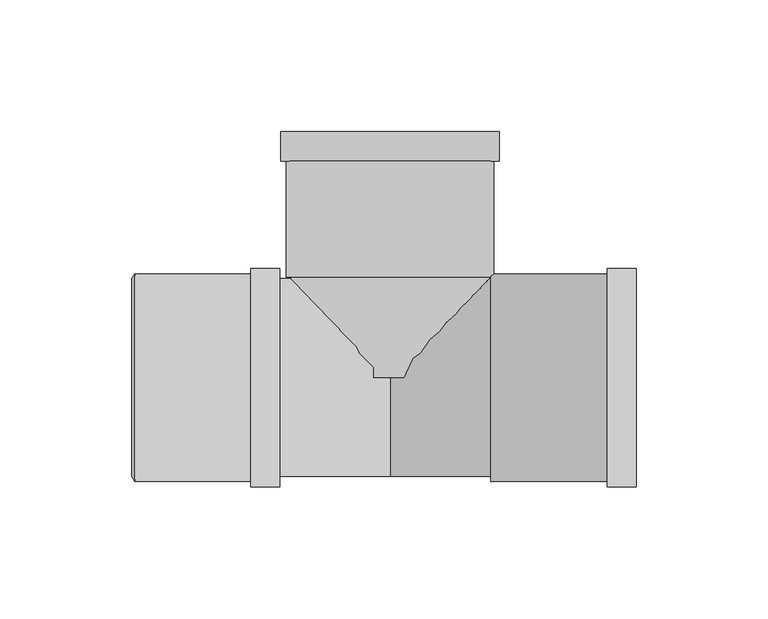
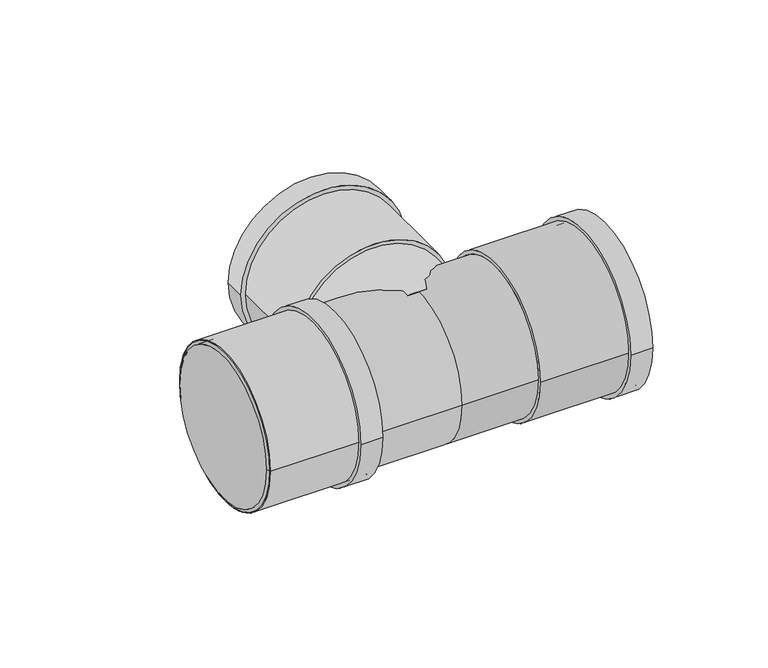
"""IFC4 building model written with IfcOpenShell, lengths in millimetres: pipe fitting geometry, Superdrain HTEA Branch : Superdrain HTEA Branch."""

from ifc_helpers import new_model, si_unit, point, frame, origin, origin_2d, place, context, project, spatial, polyline, circle_curve, trimmed, segment, composite_curve, outline, extrude, source, transform, mapped, element, save
from ifc_brep_helpers import plane_surface, revolved_surface, advanced_brep


def pipe_fitting_077ba487(model_context):
    return source(origin(), model_context, "Body", "SolidModel", [
        extrude(outline(composite_curve([segment(trimmed(circle_curve(origin_2d(), 39.375), [point((39.375, 0.0))], [point((-39.375, 0.0))], False, "CARTESIAN"), True, "CONTINUOUS"), segment(trimmed(circle_curve(origin_2d(), 39.375), [point((-39.375, 0.0))], [point((39.375, 0.0))], False, "CARTESIAN"), True, "CONTINUOUS")], self_intersect=False), holes=[composite_curve([segment(trimmed(circle_curve(origin_2d(), 37.5), [point((37.5, 0.0))], [point((-37.5, 0.0))], True, "CARTESIAN"), True, "CONTINUOUS"), segment(trimmed(circle_curve(origin_2d(), 37.5), [point((-37.5, 0.0))], [point((37.5, 0.0))], True, "CARTESIAN"), True, "CONTINUOUS")], self_intersect=False)]), frame((-96.8, 0.0, 0.0), z_axis=(1.0, 0.0, 0.0), x_axis=(0.0, 1.0, 0.0)), (0.0, 0.0, 1.0), 55.0),
        extrude(outline(composite_curve([segment(trimmed(circle_curve(origin_2d(), 41.34375), [point((41.34375, 0.0))], [point((-41.34375, 0.0))], False, "CARTESIAN"), True, "CONTINUOUS"), segment(trimmed(circle_curve(origin_2d(), 41.34375), [point((-41.34375, 0.0))], [point((41.34375, 0.0))], False, "CARTESIAN"), True, "CONTINUOUS")], self_intersect=False), holes=[composite_curve([segment(trimmed(circle_curve(origin_2d(), 37.5), [point((37.5, 0.0))], [point((-37.5, 0.0))], True, "CARTESIAN"), True, "CONTINUOUS"), segment(trimmed(circle_curve(origin_2d(), 37.5), [point((-37.5, 0.0))], [point((37.5, 0.0))], True, "CARTESIAN"), True, "CONTINUOUS")], self_intersect=False)]), frame((-52.8, 0.0, 0.0), z_axis=(1.0, 0.0, 0.0), x_axis=(0.0, 1.0, 0.0)), (0.0, 0.0, 1.0), 11.0),
        advanced_brep(
        [(-97.8, 37.5, 0.0), (-97.8, -37.5, 0.0), (-96.8, 39.375, 0.0), (-96.8, -39.375, 0.0)],
        [
            (0, 1, circle_curve(frame((-97.8, 0.0, 0.0), z_axis=(-1.0, 0.0, 0.0), x_axis=(0.0, 1.0000000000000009, 0.0)), 37.5)),
            (1, 0, circle_curve(frame((-97.8, 0.0, 0.0), z_axis=(-1.0, 0.0, 0.0), x_axis=(0.0, -1.0000000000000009, 0.0)), 37.5)),
            (2, 3, circle_curve(frame((-96.8, 0.0, 0.0), z_axis=(1.0, 0.0, 0.0), x_axis=(0.0, -1.0000000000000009, 0.0)), 39.375)),
            (3, 2, circle_curve(frame((-96.8, 0.0, 0.0), z_axis=(1.0, 0.0, 0.0), x_axis=(0.0, 1.0000000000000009, 0.0)), 39.375)),
            (3, 1),
            (0, 2),
        ],
        [
            plane_surface(frame((-97.8, 0.0, 0.0), z_axis=(-1.0, 0.0, 0.0), x_axis=(0.0, 0.0, -1.0))),
            plane_surface(frame((-96.8, 0.0, 0.0), z_axis=(1.0, 0.0, 0.0), x_axis=(0.0, 0.0, -1.0))),
            revolved_surface(polyline([(-97.8, 37.49999999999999, 0.0), (-96.8, 39.375, 0.0)]), (-117.8, 0.0, 0.0), (1.0000000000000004, 0.0, 0.0)),
            revolved_surface(polyline([(-97.8, -37.49999999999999, 0.0), (-96.8, -39.375, 0.0)]), (-117.8, 0.0, 0.0), (1.0000000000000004, 0.0, 0.0)),
        ],
        [
            (0, [[1, 2]]),
            (1, [[3, 4]]),
            (2, [[-4, 5, -1, 6]]),
            (3, [[-3, -6, -2, -5]]),
        ],
    ),
        extrude(outline(composite_curve([segment(trimmed(circle_curve(origin_2d(), 39.375), [point((-39.375, 0.0))], [point((39.375, 0.0))], False, "CARTESIAN"), True, "CONTINUOUS"), segment(trimmed(circle_curve(origin_2d(), 39.375), [point((39.375, 0.0))], [point((-39.375, 0.0))], False, "CARTESIAN"), True, "CONTINUOUS")], self_intersect=False), holes=[composite_curve([segment(trimmed(circle_curve(origin_2d(), 37.5), [point((37.5, 0.0))], [point((-37.5, 0.0))], True, "CARTESIAN"), True, "CONTINUOUS"), segment(trimmed(circle_curve(origin_2d(), 37.5), [point((-37.5, 0.0))], [point((37.5, 0.0))], True, "CARTESIAN"), True, "CONTINUOUS")], self_intersect=False)]), frame((38.2, 0.0, 0.0), z_axis=(1.0, 0.0, 0.0), x_axis=(0.0, 1.0, 0.0)), (0.0, 0.0, 1.0), 55.0),
        extrude(outline(composite_curve([segment(trimmed(circle_curve(origin_2d(), 41.34375), [point((41.34375, 0.0))], [point((-41.34375, 0.0))], False, "CARTESIAN"), True, "CONTINUOUS"), segment(trimmed(circle_curve(origin_2d(), 41.34375), [point((-41.34375, 0.0))], [point((41.34375, 0.0))], False, "CARTESIAN"), True, "CONTINUOUS")], self_intersect=False), holes=[composite_curve([segment(trimmed(circle_curve(origin_2d(), 37.5), [point((37.5, 0.0))], [point((-37.5, 0.0))], True, "CARTESIAN"), True, "CONTINUOUS"), segment(trimmed(circle_curve(origin_2d(), 37.5), [point((-37.5, 0.0))], [point((37.5, 0.0))], True, "CARTESIAN"), True, "CONTINUOUS")], self_intersect=False)]), frame((82.2, 0.0, 0.0), z_axis=(1.0, 0.0, 0.0), x_axis=(0.0, 1.0, 0.0)), (0.0, 0.0, 1.0), 11.0),
        extrude(outline(composite_curve([segment(trimmed(circle_curve(origin_2d(), 37.5), [point((0.0, 37.5))], [point((0.0, -37.5))], False, "CARTESIAN"), True, "CONTINUOUS"), segment(trimmed(circle_curve(origin_2d(), 37.5), [point((0.0, -37.5))], [point((0.0, 37.5))], False, "CARTESIAN"), True, "CONTINUOUS")], self_intersect=False)), frame((0.0, 0.0, 0.0), z_axis=(0.0, 1.0, 0.0), x_axis=(0.0, 0.0, 1.0)), (0.0, 0.0, 1.0), 38.2),
        extrude(outline(composite_curve([segment(trimmed(circle_curve(origin_2d(), 37.5), [point((37.5, 0.0))], [point((-37.5, 0.0))], False, "CARTESIAN"), True, "CONTINUOUS"), segment(trimmed(circle_curve(origin_2d(), 37.5), [point((-37.5, 0.0))], [point((37.5, 0.0))], False, "CARTESIAN"), True, "CONTINUOUS")], self_intersect=False)), frame((-96.8, 0.0, 0.0), z_axis=(1.0, 0.0, 0.0), x_axis=(0.0, 1.0, 0.0)), (0.0, 0.0, 1.0), 96.8),
        extrude(outline(composite_curve([segment(trimmed(circle_curve(origin_2d(), 37.5), [point((-37.5, 0.0))], [point((37.5, 0.0))], False, "CARTESIAN"), True, "CONTINUOUS"), segment(trimmed(circle_curve(origin_2d(), 37.5), [point((37.5, 0.0))], [point((-37.5, 0.0))], False, "CARTESIAN"), True, "CONTINUOUS")], self_intersect=False)), frame((0.0, 0.0, 0.0), z_axis=(1.0, 0.0, 0.0), x_axis=(0.0, 1.0, 0.0)), (0.0, 0.0, 1.0), 38.2),
        extrude(outline(composite_curve([segment(trimmed(circle_curve(origin_2d(), 41.34375), [point((0.0, 41.34375))], [point((0.0, -41.34375))], False, "CARTESIAN"), True, "CONTINUOUS"), segment(trimmed(circle_curve(origin_2d(), 41.34375), [point((0.0, -41.34375))], [point((0.0, 41.34375))], False, "CARTESIAN"), True, "CONTINUOUS")], self_intersect=False), holes=[composite_curve([segment(trimmed(circle_curve(origin_2d(), 37.5), [point((0.0, 37.5))], [point((0.0, -37.5))], True, "CARTESIAN"), True, "CONTINUOUS"), segment(trimmed(circle_curve(origin_2d(), 37.5), [point((0.0, -37.5))], [point((0.0, 37.5))], True, "CARTESIAN"), True, "CONTINUOUS")], self_intersect=False)]), frame((0.0, 82.2, 0.0), z_axis=(0.0, 1.0, 0.0), x_axis=(0.0, 0.0, 1.0)), (0.0, 0.0, 1.0), 11.0),
        extrude(outline(composite_curve([segment(trimmed(circle_curve(origin_2d(), 39.375), [point((0.0, 39.375))], [point((0.0, -39.375))], False, "CARTESIAN"), True, "CONTINUOUS"), segment(trimmed(circle_curve(origin_2d(), 39.375), [point((0.0, -39.375))], [point((0.0, 39.375))], False, "CARTESIAN"), True, "CONTINUOUS")], self_intersect=False), holes=[composite_curve([segment(trimmed(circle_curve(origin_2d(), 37.5), [point((0.0, 37.5))], [point((0.0, -37.5))], True, "CARTESIAN"), True, "CONTINUOUS"), segment(trimmed(circle_curve(origin_2d(), 37.5), [point((0.0, -37.5))], [point((0.0, 37.5))], True, "CARTESIAN"), True, "CONTINUOUS")], self_intersect=False)]), frame((0.0, 38.2, 0.0), z_axis=(0.0, 1.0, 0.0), x_axis=(0.0, 0.0, 1.0)), (0.0, 0.0, 1.0), 55.0),
    ])


if __name__ == "__main__":
    model = new_model("IFC4")
    model_context = context("Model", 3, world=origin())
    ifc_project = project(units=[si_unit("LENGTHUNIT", "METRE", prefix="MILLI")], contexts=[model_context])
    site = spatial("IfcSite", under=ifc_project)
    building = spatial("IfcBuilding", under=site)
    placement = place(None, origin())
    pipe_fitting_shape = pipe_fitting_077ba487(model_context)
    element("IfcPipeFitting", 1, ObjectType="Superdrain HTEA Branch : Superdrain HTEA Branch", at=placement, inside=building, context=model_context, shape_type="MappedRepresentation", body=[
        mapped(pipe_fitting_shape, transform((0.0, 0.0, 0.0), x_axis=(1.0, 0.0, 0.0), y_axis=(0.0, 1.0, 0.0), z_axis=(0.0, 0.0, 1.0))),
    ])
    save(model, "model.ifc")
